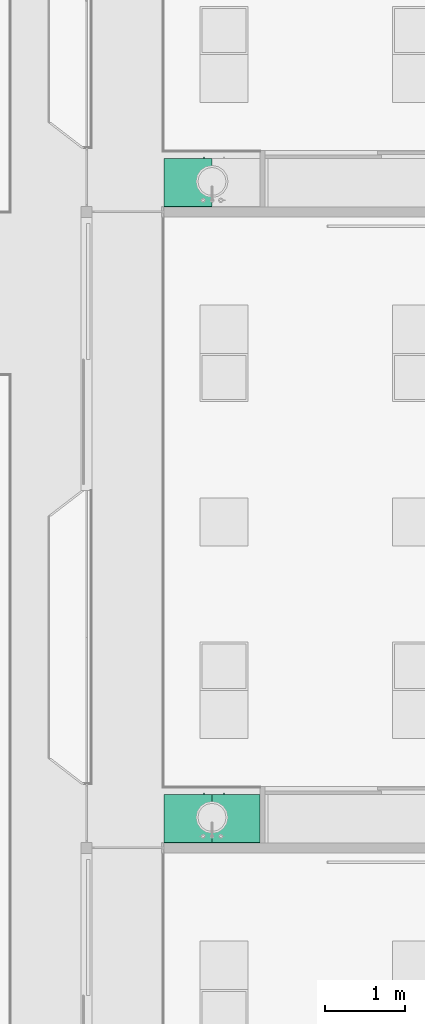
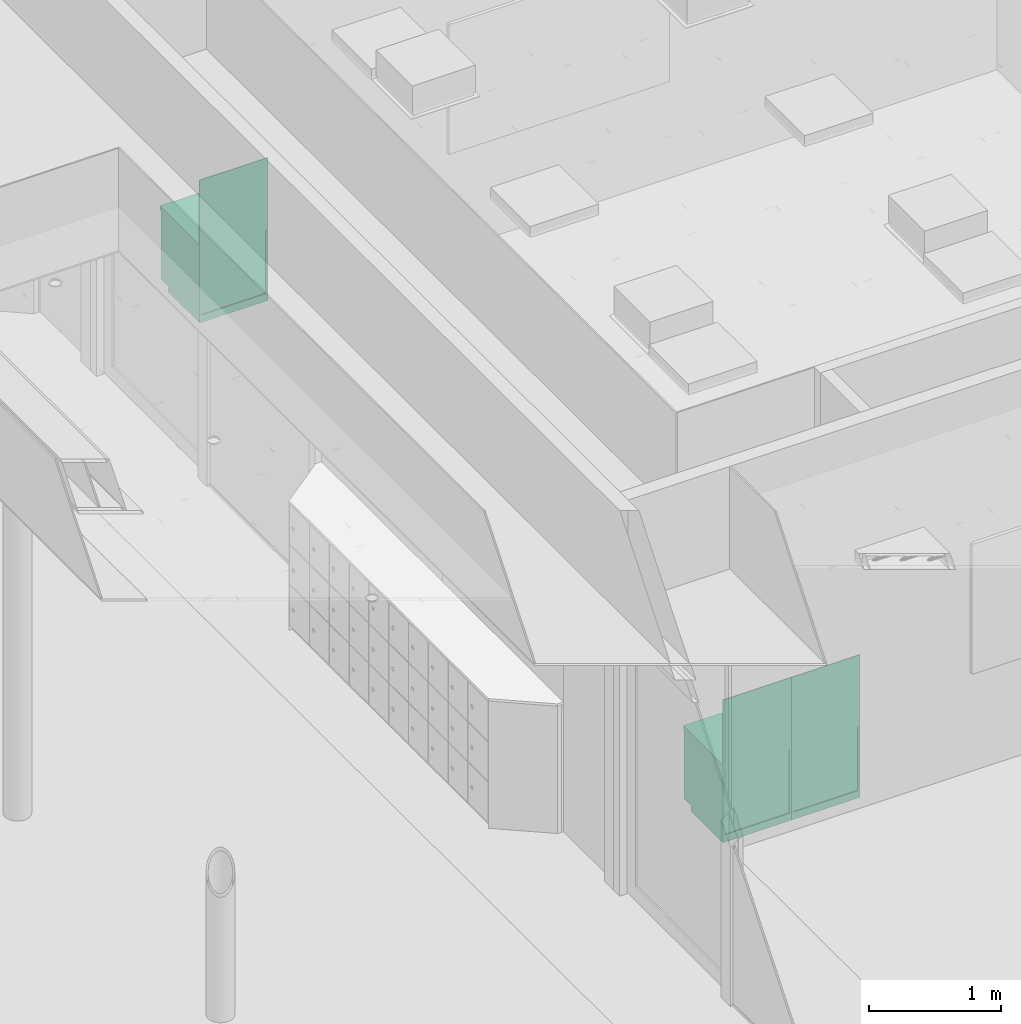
# One storey, part 306 of 347: 3 distribution elements.
"""IFC2X3 building model written with IfcOpenShell, lengths in millimetres."""

from ifc_helpers import new_model, entity, si_unit, converted_unit, derived_unit, money_unit, direction, frame, origin_with_axes, place, context, subcontext, project, spatial, faceted_brep, type_object, element, save


model = new_model("IFC2X3")

# Units and contexts
model_context = context("Model", 3, precision=0.01, world=origin_with_axes(), true_north=direction((0.0, 1.0)))
plan_context = context("Plan", 3, precision=0.01, world=origin_with_axes(), true_north=direction((0.0, 1.0)))
body_context = subcontext(model_context, "Body", "Model", "MODEL_VIEW")
ifc_project = project(units=[si_unit("LENGTHUNIT", "METRE", prefix="MILLI"), si_unit("AREAUNIT", "SQUARE_METRE"), si_unit("VOLUMEUNIT", "CUBIC_METRE"), converted_unit("PLANEANGLEUNIT", "DEGREE", entity("IfcPlaneAngleMeasure", 0.0174532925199), si_unit("PLANEANGLEUNIT", "RADIAN"), dimensions=[0, 0, 0, 0, 0, 0, 0]), money_unit("EUR"), converted_unit("TIMEUNIT", "Year", entity("IfcTimeMeasure", 31556926.0), si_unit("TIMEUNIT", "SECOND"), dimensions=[0, 0, 1, 0, 0, 0, 0]), si_unit("MASSUNIT", "GRAM", prefix="KILO"), si_unit("THERMODYNAMICTEMPERATUREUNIT", "DEGREE_CELSIUS"), si_unit("LUMINOUSINTENSITYUNIT", "LUMEN"), si_unit("ENERGYUNIT", "JOULE", prefix="MEGA"), derived_unit("THERMALCONDUCTANCEUNIT", [(si_unit("POWERUNIT", "WATT"), 1), (si_unit("LENGTHUNIT", "METRE"), -1), (si_unit("THERMODYNAMICTEMPERATUREUNIT", "KELVIN"), -1)]), derived_unit("SPECIFICHEATCAPACITYUNIT", [(si_unit("ENERGYUNIT", "JOULE"), 1), (si_unit("MASSUNIT", "GRAM", prefix="KILO"), -1), (si_unit("THERMODYNAMICTEMPERATUREUNIT", "KELVIN"), -1)]), derived_unit("MASSDENSITYUNIT", [(si_unit("MASSUNIT", "GRAM", prefix="KILO"), 1), (si_unit("VOLUMEUNIT", "CUBIC_METRE"), -1)])], contexts=[model_context, plan_context])

# Site, building, storey
site_placement = place(None, origin_with_axes())
site = spatial("IfcSite", under=ifc_project, at=site_placement, Name="Site", CompositionType="ELEMENT")
building_placement = place(site_placement, origin_with_axes())
building = spatial("IfcBuilding", under=site, at=building_placement, Name="Naam gebouw", CompositionType="ELEMENT")
storey_placement = place(building_placement, origin_with_axes())
storey = spatial("IfcBuildingStorey", under=building, at=storey_placement, Name="begane grond", CompositionType="ELEMENT", Elevation=0.0)

# Distribution elements
distribution_element_type = type_object("IfcDistributionElementType", Name="Onderkast recht 25")
distribution_element_1_placement = place(storey_placement, frame((48975.0, 20112.5, 0.0), z_axis=(0.0, 0.0, 1.0), x_axis=(-1.0, 0.0, 0.0)))
element("IfcDistributionElement", 1, at=distribution_element_1_placement, inside=storey, type_object=distribution_element_type, Name="65 Beveiliging_82 pantryblok", context=body_context, shape_type="Brep", body=[
    faceted_brep([(-472.720779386, -444.012913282, 720.0), (-531.116982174, -483.03200852, 720.0), (-600.0, -496.733692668, 720.0), (-600.0, -600.0, 720.0), (0.0, -600.0, 720.0), (0.0, 0.0, 720.0), (-600.0, 0.0, 720.0), (-600.0, -136.733692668, 720.0), (-531.116982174, -150.435376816, 720.0), (-472.720779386, -189.454472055, 720.0), (-433.701684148, -247.850674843, 720.0), (-420.0, -316.733692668, 720.0), (-433.701684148, -385.616710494, 720.0), (-472.720779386, -444.012913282, 680.0), (-531.116982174, -483.03200852, 680.0), (-600.0, -496.733692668, 680.0), (-600.0, -600.0, 680.0), (0.0, -600.0, 680.0), (0.0, 0.0, 680.0), (-600.0, 0.0, 680.0), (-600.0, -136.733692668, 680.0), (-531.116982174, -150.435376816, 680.0), (-472.720779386, -189.454472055, 680.0), (-433.701684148, -247.850674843, 680.0), (-420.0, -316.733692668, 680.0), (-433.701684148, -385.616710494, 680.0)], [[[0, 1, 2, 3, 4, 5, 6, 7, 8, 9, 10, 11, 12]], [[1, 0, 13, 14]], [[2, 1, 14, 15]], [[2, 15, 16, 3]], [[16, 17, 4, 3]], [[17, 18, 5, 4]], [[18, 19, 6, 5]], [[20, 7, 6, 19]], [[8, 7, 20, 21]], [[9, 8, 21, 22]], [[10, 9, 22, 23]], [[11, 10, 23, 24]], [[12, 11, 24, 25]], [[0, 12, 25, 13]], [[21, 20, 19, 18, 17, 16, 15, 14, 13, 25, 24, 23, 22]]]),
    faceted_brep([(-18.0, -512.0, 662.0), (-18.0, -572.0, 662.0), (-582.0, -572.0, 662.0), (-582.0, -512.0, 662.0), (-18.0, -572.0, 680.0), (-18.0, -512.0, 680.0), (-582.0, -572.0, 680.0), (-582.0, -512.0, 680.0)], [[[0, 1, 2, 3]], [[4, 1, 0, 5]], [[1, 4, 6, 2]], [[3, 2, 6, 7]], [[5, 0, 3, 7]], [[4, 5, 7, 6]]]),
    faceted_brep([(-18.0, -9.0, 68.0), (-582.0, -9.0, 68.0), (-582.0, -9.0, 662.0), (-18.0, -9.0, 662.0), (-582.0, -18.0, 68.0), (-18.0, -18.0, 68.0), (-582.0, -18.0, 662.0), (-18.0, -18.0, 662.0)], [[[0, 1, 2, 3]], [[4, 1, 0, 5]], [[1, 4, 6, 2]], [[3, 2, 6, 7]], [[5, 0, 3, 7]], [[4, 5, 7, 6]]]),
    faceted_brep([(-582.0, -60.0, 662.0), (-582.0, 0.0, 662.0), (-18.0, 0.0, 662.0), (-18.0, -60.0, 662.0), (-582.0, 0.0, 680.0), (-582.0, -60.0, 680.0), (-18.0, 0.0, 680.0), (-18.0, -60.0, 680.0)], [[[0, 1, 2, 3]], [[4, 1, 0, 5]], [[1, 4, 6, 2]], [[3, 2, 6, 7]], [[5, 0, 3, 7]], [[4, 5, 7, 6]]]),
    faceted_brep([(0.0, -572.0, 50.0), (0.0, 0.0, 50.0), (0.0, 0.0, 680.0), (0.0, -572.0, 680.0), (-18.0, 0.0, 50.0), (-18.0, -572.0, 50.0), (-18.0, 0.0, 680.0), (-18.0, -572.0, 680.0)], [[[0, 1, 2, 3]], [[4, 1, 0, 5]], [[1, 4, 6, 2]], [[3, 2, 6, 7]], [[5, 0, 3, 7]], [[4, 5, 7, 6]]]),
    faceted_brep([(-594.564800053, -196.449250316, 520.0), (-600.0, -195.733692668, 520.0), (-600.0, -195.733692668, 500.0), (-594.564800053, -196.449250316, 500.0), (-600.0, -136.733692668, 520.0), (-589.5, -198.547159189, 520.0), (-585.150757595, -201.884450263, 520.0), (-582.0, -205.990597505, 520.0), (-582.0, -140.314115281, 520.0), (-600.0, -496.733692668, 520.0), (-600.0, -237.733692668, 520.0), (-600.0, -237.733692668, 500.0), (-600.0, -136.733692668, 680.0), (-600.0, 0.0, 680.0), (-600.0, 0.0, 50.0), (-600.0, -572.0, 50.0), (-600.0, -572.0, 680.0), (-600.0, -496.733692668, 680.0), (-594.564800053, -237.01813502, 500.0), (-589.5, -234.920226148, 500.0), (-585.150757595, -231.582935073, 500.0), (-582.0, -227.476787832, 500.0), (-582.0, -205.990597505, 500.0), (-585.150757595, -201.884450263, 500.0), (-589.5, -198.547159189, 500.0), (-582.0, -493.153270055, 520.0), (-582.0, -493.153270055, 680.0), (-582.0, -572.0, 680.0), (-582.0, -572.0, 50.0), (-582.0, 0.0, 50.0), (-582.0, 0.0, 680.0), (-582.0, -140.314115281, 680.0), (-582.0, -227.476787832, 520.0), (-585.150757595, -231.582935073, 520.0), (-589.5, -234.920226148, 520.0), (-594.564800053, -237.01813502, 520.0)], [[[0, 1, 2, 3]], [[4, 1, 0, 5, 6, 7, 8]], [[9, 10, 11, 2, 1, 4, 12, 13, 14, 15, 16, 17]], [[2, 11, 18, 19, 20, 21, 22, 23, 24, 3]], [[5, 0, 3, 24]], [[6, 5, 24, 23]], [[7, 6, 23, 22]], [[25, 26, 27, 28, 29, 30, 31, 8, 7, 22, 21, 32]], [[31, 12, 4, 8]], [[10, 9, 25, 32, 33, 34, 35]], [[10, 35, 18, 11]], [[12, 31, 30, 13]], [[29, 14, 13, 30]], [[28, 15, 14, 29]], [[15, 28, 27, 16]], [[26, 17, 16, 27]], [[17, 26, 25, 9]], [[35, 34, 19, 18]], [[34, 33, 20, 19]], [[33, 32, 21, 20]]]),
    faceted_brep([(-600.0, 0.0, 720.0), (0.0, 0.0, 720.0), (0.0, -6.0, 720.0), (-600.0, -6.0, 720.0), (-600.0, 0.0, 1320.0), (0.0, 0.0, 1320.0), (0.0, -6.0, 1320.0), (-600.0, -6.0, 1320.0)], [[[0, 1, 2, 3]], [[4, 5, 1, 0]], [[1, 5, 6, 2]], [[3, 2, 6, 7]], [[0, 3, 7, 4]], [[7, 6, 5, 4]]]),
    faceted_brep([(-496.0, -590.0, 291.0), (-506.0, -590.0, 291.0), (-506.0, -590.0, 301.0), (-496.0, -590.0, 301.0), (-496.0, -600.0, 291.0), (-506.0, -600.0, 291.0), (-506.0, -603.472963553, 291.30384494), (-506.0, -606.840402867, 292.206147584), (-506.0, -610.0, 293.679491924), (-506.0, -612.855752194, 295.679111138), (-506.0, -615.320888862, 298.144247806), (-506.0, -617.320508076, 301.0), (-506.0, -618.793852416, 304.159597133), (-506.0, -619.69615506, 307.527036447), (-506.0, -620.0, 311.0), (-506.0, -620.0, 421.0), (-506.0, -619.69615506, 424.472963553), (-506.0, -618.793852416, 427.840402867), (-506.0, -617.320508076, 431.0), (-506.0, -615.320888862, 433.855752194), (-506.0, -612.855752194, 436.320888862), (-506.0, -610.0, 438.320508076), (-506.0, -606.840402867, 439.793852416), (-506.0, -603.472963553, 440.69615506), (-506.0, -600.0, 441.0), (-506.0, -590.0, 441.0), (-506.0, -590.0, 431.0), (-506.0, -600.0, 431.0), (-506.0, -601.736481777, 430.84807753), (-506.0, -603.420201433, 430.396926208), (-506.0, -605.0, 429.660254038), (-506.0, -606.427876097, 428.660444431), (-506.0, -607.660444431, 427.427876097), (-506.0, -608.660254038, 426.0), (-506.0, -609.396926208, 424.420201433), (-506.0, -609.84807753, 422.736481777), (-506.0, -610.0, 421.0), (-506.0, -610.0, 311.0), (-506.0, -609.84807753, 309.263518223), (-506.0, -609.396926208, 307.579798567), (-506.0, -608.660254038, 306.0), (-506.0, -607.660444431, 304.572123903), (-506.0, -606.427876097, 303.339555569), (-506.0, -605.0, 302.339745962), (-506.0, -603.420201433, 301.603073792), (-506.0, -601.736481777, 301.15192247), (-506.0, -600.0, 301.0), (-496.0, -600.0, 301.0), (-496.0, -601.736481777, 301.15192247), (-496.0, -603.420201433, 301.603073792), (-496.0, -605.0, 302.339745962), (-496.0, -606.427876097, 303.339555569), (-496.0, -607.660444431, 304.572123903), (-496.0, -608.660254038, 306.0), (-496.0, -609.396926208, 307.579798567), (-496.0, -609.84807753, 309.263518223), (-496.0, -610.0, 311.0), (-496.0, -610.0, 421.0), (-496.0, -609.84807753, 422.736481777), (-496.0, -609.396926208, 424.420201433), (-496.0, -608.660254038, 426.0), (-496.0, -607.660444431, 427.427876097), (-496.0, -606.427876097, 428.660444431), (-496.0, -605.0, 429.660254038), (-496.0, -603.420201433, 430.396926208), (-496.0, -601.736481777, 430.84807753), (-496.0, -600.0, 431.0), (-496.0, -590.0, 431.0), (-496.0, -590.0, 441.0), (-496.0, -600.0, 441.0), (-496.0, -603.472963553, 440.69615506), (-496.0, -606.840402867, 439.793852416), (-496.0, -610.0, 438.320508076), (-496.0, -612.855752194, 436.320888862), (-496.0, -615.320888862, 433.855752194), (-496.0, -617.320508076, 431.0), (-496.0, -618.793852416, 427.840402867), (-496.0, -619.69615506, 424.472963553), (-496.0, -620.0, 421.0), (-496.0, -620.0, 311.0), (-496.0, -619.69615506, 307.527036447), (-496.0, -618.793852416, 304.159597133), (-496.0, -617.320508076, 301.0), (-496.0, -615.320888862, 298.144247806), (-496.0, -612.855752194, 295.679111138), (-496.0, -610.0, 293.679491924), (-496.0, -606.840402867, 292.206147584), (-496.0, -603.472963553, 291.30384494)], [[[0, 1, 2, 3]], [[4, 5, 1, 0]], [[1, 5, 6, 7, 8, 9, 10, 11, 12, 13, 14, 15, 16, 17, 18, 19, 20, 21, 22, 23, 24, 25, 26, 27, 28, 29, 30, 31, 32, 33, 34, 35, 36, 37, 38, 39, 40, 41, 42, 43, 44, 45, 46, 2]], [[3, 2, 46, 47]], [[0, 3, 47, 48, 49, 50, 51, 52, 53, 54, 55, 56, 57, 58, 59, 60, 61, 62, 63, 64, 65, 66, 67, 68, 69, 70, 71, 72, 73, 74, 75, 76, 77, 78, 79, 80, 81, 82, 83, 84, 85, 86, 87, 4]], [[87, 6, 5, 4]], [[86, 7, 6, 87]], [[85, 8, 7, 86]], [[84, 9, 8, 85]], [[83, 10, 9, 84]], [[82, 11, 10, 83]], [[81, 12, 11, 82]], [[80, 13, 12, 81]], [[79, 14, 13, 80]], [[78, 15, 14, 79]], [[77, 16, 15, 78]], [[76, 17, 16, 77]], [[75, 18, 17, 76]], [[74, 19, 18, 75]], [[73, 20, 19, 74]], [[72, 21, 20, 73]], [[71, 22, 21, 72]], [[70, 23, 22, 71]], [[69, 24, 23, 70]], [[68, 25, 24, 69]], [[67, 26, 25, 68]], [[66, 27, 26, 67]], [[65, 28, 27, 66]], [[64, 29, 28, 65]], [[63, 30, 29, 64]], [[62, 31, 30, 63]], [[61, 32, 31, 62]], [[60, 33, 32, 61]], [[59, 34, 33, 60]], [[58, 35, 34, 59]], [[57, 36, 35, 58]], [[56, 37, 36, 57]], [[55, 38, 37, 56]], [[54, 39, 38, 55]], [[53, 40, 39, 54]], [[52, 41, 40, 53]], [[51, 42, 41, 52]], [[50, 43, 42, 51]], [[49, 44, 43, 50]], [[48, 45, 44, 49]], [[47, 46, 45, 48]]]),
    faceted_brep([(-0.999999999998, -572.0, 51.0), (-0.999999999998, -590.0, 51.0), (-599.0, -590.0, 51.0), (-599.0, -572.0, 51.0), (-0.999999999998, -572.0, 679.0), (-0.999999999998, -590.0, 679.0), (-599.0, -590.0, 679.0), (-599.0, -572.0, 679.0)], [[[0, 1, 2, 3]], [[4, 5, 1, 0]], [[1, 5, 6, 2]], [[3, 2, 6, 7]], [[0, 3, 7, 4]], [[7, 6, 5, 4]]]),
    faceted_brep([(-18.0, -572.0, 50.0), (-18.0, -572.0, 68.0), (-582.0, -572.0, 68.0), (-582.0, -572.0, 50.0), (-18.0, 0.0, 50.0), (-18.0, 0.0, 68.0), (-582.0, 0.0, 68.0), (-582.0, 0.0, 50.0)], [[[0, 1, 2, 3]], [[4, 5, 1, 0]], [[1, 5, 6, 2]], [[3, 2, 6, 7]], [[0, 3, 7, 4]], [[7, 6, 5, 4]]]),
    faceted_brep([(0.0, -482.0, 0.0), (0.0, -482.0, 50.0), (-600.0, -482.0, 50.0), (-600.0, -482.0, 0.0), (0.0, 0.0, 0.0), (0.0, 0.0, 50.0), (-600.0, 0.0, 50.0), (-600.0, 0.0, 0.0)], [[[0, 1, 2, 3]], [[4, 5, 1, 0]], [[1, 5, 6, 2]], [[3, 2, 6, 7]], [[0, 3, 7, 4]], [[7, 6, 5, 4]]]),
])
distribution_element_2_placement = place(storey_placement, frame((49575.0, 20112.5, 0.0), z_axis=(0.0, 0.0, 1.0), x_axis=(-1.0, 0.0, 0.0)))
element("IfcDistributionElement", 2, at=distribution_element_2_placement, inside=storey, type_object=distribution_element_type, Name="65 Beveiliging_82 pantryblok", context=body_context, shape_type="Brep", body=[
    faceted_brep([(-127.279220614, -444.012913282, 720.0), (-166.298315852, -385.616710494, 720.0), (-180.0, -316.733692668, 720.0), (-166.298315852, -247.850674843, 720.0), (-127.279220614, -189.454472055, 720.0), (-68.8830178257, -150.435376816, 720.0), (0.0, -136.733692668, 720.0), (0.0, 0.0, 720.0), (-600.0, 0.0, 720.0), (-600.0, -600.0, 720.0), (0.0, -600.0, 720.0), (0.0, -496.733692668, 720.0), (-68.8830178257, -483.03200852, 720.0), (-127.279220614, -444.012913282, 680.0), (-166.298315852, -385.616710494, 680.0), (-180.0, -316.733692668, 680.0), (-166.298315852, -247.850674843, 680.0), (-127.279220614, -189.454472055, 680.0), (-68.8830178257, -150.435376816, 680.0), (0.0, -136.733692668, 680.0), (0.0, 0.0, 680.0), (-600.0, 0.0, 680.0), (-600.0, -600.0, 680.0), (0.0, -600.0, 680.0), (0.0, -496.733692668, 680.0), (-68.8830178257, -483.03200852, 680.0)], [[[0, 1, 2, 3, 4, 5, 6, 7, 8, 9, 10, 11, 12]], [[1, 0, 13, 14]], [[2, 1, 14, 15]], [[3, 2, 15, 16]], [[4, 3, 16, 17]], [[5, 4, 17, 18]], [[6, 5, 18, 19]], [[6, 19, 20, 7]], [[20, 21, 8, 7]], [[21, 22, 9, 8]], [[22, 23, 10, 9]], [[24, 11, 10, 23]], [[12, 11, 24, 25]], [[0, 12, 25, 13]], [[25, 24, 23, 22, 21, 20, 19, 18, 17, 16, 15, 14, 13]]]),
    faceted_brep([(-18.0, -512.0, 662.0), (-18.0, -572.0, 662.0), (-582.0, -572.0, 662.0), (-582.0, -512.0, 662.0), (-18.0, -572.0, 680.0), (-18.0, -512.0, 680.0), (-582.0, -572.0, 680.0), (-582.0, -512.0, 680.0)], [[[0, 1, 2, 3]], [[4, 1, 0, 5]], [[1, 4, 6, 2]], [[3, 2, 6, 7]], [[5, 0, 3, 7]], [[4, 5, 7, 6]]]),
    faceted_brep([(-18.0, -9.0, 68.0), (-582.0, -9.0, 68.0), (-582.0, -9.0, 662.0), (-18.0, -9.0, 662.0), (-582.0, -18.0, 68.0), (-18.0, -18.0, 68.0), (-582.0, -18.0, 662.0), (-18.0, -18.0, 662.0)], [[[0, 1, 2, 3]], [[4, 1, 0, 5]], [[1, 4, 6, 2]], [[3, 2, 6, 7]], [[5, 0, 3, 7]], [[4, 5, 7, 6]]]),
    faceted_brep([(-582.0, -60.0, 662.0), (-582.0, 0.0, 662.0), (-18.0, 0.0, 662.0), (-18.0, -60.0, 662.0), (-582.0, 0.0, 680.0), (-582.0, -60.0, 680.0), (-18.0, 0.0, 680.0), (-18.0, -60.0, 680.0)], [[[0, 1, 2, 3]], [[4, 1, 0, 5]], [[1, 4, 6, 2]], [[3, 2, 6, 7]], [[5, 0, 3, 7]], [[4, 5, 7, 6]]]),
    faceted_brep([(-14.8492424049, -201.884450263, 520.0), (-18.0, -205.990597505, 520.0), (-18.0, -205.990597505, 500.0), (-14.8492424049, -201.884450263, 500.0), (-18.0, -140.314115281, 520.0), (-10.5, -198.547159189, 520.0), (-5.43519994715, -196.449250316, 520.0), (0.0, -195.733692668, 520.0), (0.0, -136.733692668, 520.0), (-18.0, -493.153270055, 520.0), (-18.0, -227.476787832, 520.0), (-18.0, -227.476787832, 500.0), (-18.0, -140.314115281, 680.0), (-18.0, 0.0, 680.0), (-18.0, 0.0, 50.0), (-18.0, -572.0, 50.0), (-18.0, -572.0, 680.0), (-18.0, -493.153270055, 680.0), (-14.8492424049, -231.582935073, 500.0), (-10.5, -234.920226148, 500.0), (-5.43519994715, -237.01813502, 500.0), (0.0, -237.733692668, 500.0), (0.0, -195.733692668, 500.0), (-5.43519994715, -196.449250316, 500.0), (-10.5, -198.547159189, 500.0), (0.0, -496.733692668, 520.0), (0.0, -496.733692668, 680.0), (0.0, -572.0, 680.0), (0.0, -572.0, 50.0), (0.0, 0.0, 50.0), (0.0, 0.0, 680.0), (0.0, -136.733692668, 680.0), (0.0, -237.733692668, 520.0), (-5.43519994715, -237.01813502, 520.0), (-10.5, -234.920226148, 520.0), (-14.8492424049, -231.582935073, 520.0)], [[[0, 1, 2, 3]], [[4, 1, 0, 5, 6, 7, 8]], [[9, 10, 11, 2, 1, 4, 12, 13, 14, 15, 16, 17]], [[2, 11, 18, 19, 20, 21, 22, 23, 24, 3]], [[5, 0, 3, 24]], [[6, 5, 24, 23]], [[7, 6, 23, 22]], [[25, 26, 27, 28, 29, 30, 31, 8, 7, 22, 21, 32]], [[31, 12, 4, 8]], [[10, 9, 25, 32, 33, 34, 35]], [[10, 35, 18, 11]], [[12, 31, 30, 13]], [[29, 14, 13, 30]], [[14, 29, 28, 15]], [[15, 28, 27, 16]], [[26, 17, 16, 27]], [[9, 17, 26, 25]], [[35, 34, 19, 18]], [[34, 33, 20, 19]], [[33, 32, 21, 20]]]),
    faceted_brep([(-600.0, 0.0, 50.0), (-600.0, -572.0, 50.0), (-600.0, -572.0, 680.0), (-600.0, 0.0, 680.0), (-582.0, -572.0, 50.0), (-582.0, 0.0, 50.0), (-582.0, -572.0, 680.0), (-582.0, 0.0, 680.0)], [[[0, 1, 2, 3]], [[4, 1, 0, 5]], [[1, 4, 6, 2]], [[3, 2, 6, 7]], [[5, 0, 3, 7]], [[4, 5, 7, 6]]]),
    faceted_brep([(-600.0, 0.0, 720.0), (0.0, 0.0, 720.0), (0.0, -6.0, 720.0), (-600.0, -6.0, 720.0), (-600.0, 0.0, 1320.0), (0.0, 0.0, 1320.0), (0.0, -6.0, 1320.0), (-600.0, -6.0, 1320.0)], [[[0, 1, 2, 3]], [[4, 5, 1, 0]], [[1, 5, 6, 2]], [[3, 2, 6, 7]], [[0, 3, 7, 4]], [[7, 6, 5, 4]]]),
    faceted_brep([(-146.0, -590.0, 291.0), (-156.0, -590.0, 291.0), (-156.0, -590.0, 301.0), (-146.0, -590.0, 301.0), (-146.0, -600.0, 291.0), (-156.0, -600.0, 291.0), (-156.0, -603.472963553, 291.30384494), (-156.0, -606.840402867, 292.206147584), (-156.0, -610.0, 293.679491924), (-156.0, -612.855752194, 295.679111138), (-156.0, -615.320888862, 298.144247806), (-156.0, -617.320508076, 301.0), (-156.0, -618.793852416, 304.159597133), (-156.0, -619.69615506, 307.527036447), (-156.0, -620.0, 311.0), (-156.0, -620.0, 421.0), (-156.0, -619.69615506, 424.472963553), (-156.0, -618.793852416, 427.840402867), (-156.0, -617.320508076, 431.0), (-156.0, -615.320888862, 433.855752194), (-156.0, -612.855752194, 436.320888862), (-156.0, -610.0, 438.320508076), (-156.0, -606.840402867, 439.793852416), (-156.0, -603.472963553, 440.69615506), (-156.0, -600.0, 441.0), (-156.0, -590.0, 441.0), (-156.0, -590.0, 431.0), (-156.0, -600.0, 431.0), (-156.0, -601.736481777, 430.84807753), (-156.0, -603.420201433, 430.396926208), (-156.0, -605.0, 429.660254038), (-156.0, -606.427876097, 428.660444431), (-156.0, -607.660444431, 427.427876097), (-156.0, -608.660254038, 426.0), (-156.0, -609.396926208, 424.420201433), (-156.0, -609.84807753, 422.736481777), (-156.0, -610.0, 421.0), (-156.0, -610.0, 311.0), (-156.0, -609.84807753, 309.263518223), (-156.0, -609.396926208, 307.579798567), (-156.0, -608.660254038, 306.0), (-156.0, -607.660444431, 304.572123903), (-156.0, -606.427876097, 303.339555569), (-156.0, -605.0, 302.339745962), (-156.0, -603.420201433, 301.603073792), (-156.0, -601.736481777, 301.15192247), (-156.0, -600.0, 301.0), (-146.0, -600.0, 301.0), (-146.0, -601.736481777, 301.15192247), (-146.0, -603.420201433, 301.603073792), (-146.0, -605.0, 302.339745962), (-146.0, -606.427876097, 303.339555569), (-146.0, -607.660444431, 304.572123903), (-146.0, -608.660254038, 306.0), (-146.0, -609.396926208, 307.579798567), (-146.0, -609.84807753, 309.263518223), (-146.0, -610.0, 311.0), (-146.0, -610.0, 421.0), (-146.0, -609.84807753, 422.736481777), (-146.0, -609.396926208, 424.420201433), (-146.0, -608.660254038, 426.0), (-146.0, -607.660444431, 427.427876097), (-146.0, -606.427876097, 428.660444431), (-146.0, -605.0, 429.660254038), (-146.0, -603.420201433, 430.396926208), (-146.0, -601.736481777, 430.84807753), (-146.0, -600.0, 431.0), (-146.0, -590.0, 431.0), (-146.0, -590.0, 441.0), (-146.0, -600.0, 441.0), (-146.0, -603.472963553, 440.69615506), (-146.0, -606.840402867, 439.793852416), (-146.0, -610.0, 438.320508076), (-146.0, -612.855752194, 436.320888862), (-146.0, -615.320888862, 433.855752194), (-146.0, -617.320508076, 431.0), (-146.0, -618.793852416, 427.840402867), (-146.0, -619.69615506, 424.472963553), (-146.0, -620.0, 421.0), (-146.0, -620.0, 311.0), (-146.0, -619.69615506, 307.527036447), (-146.0, -618.793852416, 304.159597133), (-146.0, -617.320508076, 301.0), (-146.0, -615.320888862, 298.144247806), (-146.0, -612.855752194, 295.679111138), (-146.0, -610.0, 293.679491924), (-146.0, -606.840402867, 292.206147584), (-146.0, -603.472963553, 291.30384494)], [[[0, 1, 2, 3]], [[4, 5, 1, 0]], [[1, 5, 6, 7, 8, 9, 10, 11, 12, 13, 14, 15, 16, 17, 18, 19, 20, 21, 22, 23, 24, 25, 26, 27, 28, 29, 30, 31, 32, 33, 34, 35, 36, 37, 38, 39, 40, 41, 42, 43, 44, 45, 46, 2]], [[3, 2, 46, 47]], [[0, 3, 47, 48, 49, 50, 51, 52, 53, 54, 55, 56, 57, 58, 59, 60, 61, 62, 63, 64, 65, 66, 67, 68, 69, 70, 71, 72, 73, 74, 75, 76, 77, 78, 79, 80, 81, 82, 83, 84, 85, 86, 87, 4]], [[87, 6, 5, 4]], [[86, 7, 6, 87]], [[85, 8, 7, 86]], [[84, 9, 8, 85]], [[83, 10, 9, 84]], [[82, 11, 10, 83]], [[81, 12, 11, 82]], [[80, 13, 12, 81]], [[79, 14, 13, 80]], [[78, 15, 14, 79]], [[77, 16, 15, 78]], [[76, 17, 16, 77]], [[75, 18, 17, 76]], [[74, 19, 18, 75]], [[73, 20, 19, 74]], [[72, 21, 20, 73]], [[71, 22, 21, 72]], [[70, 23, 22, 71]], [[69, 24, 23, 70]], [[68, 25, 24, 69]], [[67, 26, 25, 68]], [[66, 27, 26, 67]], [[65, 28, 27, 66]], [[64, 29, 28, 65]], [[63, 30, 29, 64]], [[62, 31, 30, 63]], [[61, 32, 31, 62]], [[60, 33, 32, 61]], [[59, 34, 33, 60]], [[58, 35, 34, 59]], [[57, 36, 35, 58]], [[56, 37, 36, 57]], [[55, 38, 37, 56]], [[54, 39, 38, 55]], [[53, 40, 39, 54]], [[52, 41, 40, 53]], [[51, 42, 41, 52]], [[50, 43, 42, 51]], [[49, 44, 43, 50]], [[48, 45, 44, 49]], [[47, 46, 45, 48]]]),
    faceted_brep([(-0.999999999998, -572.0, 51.0), (-0.999999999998, -590.0, 51.0), (-599.0, -590.0, 51.0), (-599.0, -572.0, 51.0), (-0.999999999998, -572.0, 679.0), (-0.999999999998, -590.0, 679.0), (-599.0, -590.0, 679.0), (-599.0, -572.0, 679.0)], [[[0, 1, 2, 3]], [[4, 5, 1, 0]], [[1, 5, 6, 2]], [[3, 2, 6, 7]], [[0, 3, 7, 4]], [[7, 6, 5, 4]]]),
    faceted_brep([(-18.0, -572.0, 50.0), (-18.0, -572.0, 68.0), (-582.0, -572.0, 68.0), (-582.0, -572.0, 50.0), (-18.0, 0.0, 50.0), (-18.0, 0.0, 68.0), (-582.0, 0.0, 68.0), (-582.0, 0.0, 50.0)], [[[0, 1, 2, 3]], [[4, 5, 1, 0]], [[1, 5, 6, 2]], [[3, 2, 6, 7]], [[0, 3, 7, 4]], [[7, 6, 5, 4]]]),
    faceted_brep([(0.0, -482.0, 0.0), (0.0, -482.0, 50.0), (-600.0, -482.0, 50.0), (-600.0, -482.0, 0.0), (0.0, 0.0, 0.0), (0.0, 0.0, 50.0), (-600.0, 0.0, 50.0), (-600.0, 0.0, 0.0)], [[[0, 1, 2, 3]], [[4, 5, 1, 0]], [[1, 5, 6, 2]], [[3, 2, 6, 7]], [[0, 3, 7, 4]], [[7, 6, 5, 4]]]),
])
distribution_element_3_placement = place(storey_placement, frame((48975.0, 28037.5, 0.0), z_axis=(0.0, 0.0, 1.0), x_axis=(-1.0, 0.0, 0.0)))
element("IfcDistributionElement", 3, at=distribution_element_3_placement, inside=storey, type_object=distribution_element_type, Name="65 Beveiliging_82 pantryblok", context=body_context, shape_type="Brep", body=[
    faceted_brep([(-472.720779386, -444.012913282, 720.0), (-531.116982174, -483.03200852, 720.0), (-600.0, -496.733692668, 720.0), (-600.0, -600.0, 720.0), (0.0, -600.0, 720.0), (0.0, 0.0, 720.0), (-600.0, 0.0, 720.0), (-600.0, -136.733692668, 720.0), (-531.116982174, -150.435376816, 720.0), (-472.720779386, -189.454472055, 720.0), (-433.701684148, -247.850674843, 720.0), (-420.0, -316.733692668, 720.0), (-433.701684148, -385.616710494, 720.0), (-472.720779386, -444.012913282, 680.0), (-531.116982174, -483.03200852, 680.0), (-600.0, -496.733692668, 680.0), (-600.0, -600.0, 680.0), (0.0, -600.0, 680.0), (0.0, 0.0, 680.0), (-600.0, 0.0, 680.0), (-600.0, -136.733692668, 680.0), (-531.116982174, -150.435376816, 680.0), (-472.720779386, -189.454472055, 680.0), (-433.701684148, -247.850674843, 680.0), (-420.0, -316.733692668, 680.0), (-433.701684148, -385.616710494, 680.0)], [[[0, 1, 2, 3, 4, 5, 6, 7, 8, 9, 10, 11, 12]], [[1, 0, 13, 14]], [[2, 1, 14, 15]], [[2, 15, 16, 3]], [[16, 17, 4, 3]], [[17, 18, 5, 4]], [[18, 19, 6, 5]], [[20, 7, 6, 19]], [[8, 7, 20, 21]], [[9, 8, 21, 22]], [[10, 9, 22, 23]], [[11, 10, 23, 24]], [[12, 11, 24, 25]], [[0, 12, 25, 13]], [[21, 20, 19, 18, 17, 16, 15, 14, 13, 25, 24, 23, 22]]]),
    faceted_brep([(-18.0, -512.0, 662.0), (-18.0, -572.0, 662.0), (-582.0, -572.0, 662.0), (-582.0, -512.0, 662.0), (-18.0, -572.0, 680.0), (-18.0, -512.0, 680.0), (-582.0, -572.0, 680.0), (-582.0, -512.0, 680.0)], [[[0, 1, 2, 3]], [[4, 1, 0, 5]], [[1, 4, 6, 2]], [[3, 2, 6, 7]], [[5, 0, 3, 7]], [[4, 5, 7, 6]]]),
    faceted_brep([(-18.0, -9.0, 68.0), (-582.0, -9.0, 68.0), (-582.0, -9.0, 662.0), (-18.0, -9.0, 662.0), (-582.0, -18.0, 68.0), (-18.0, -18.0, 68.0), (-582.0, -18.0, 662.0), (-18.0, -18.0, 662.0)], [[[0, 1, 2, 3]], [[4, 1, 0, 5]], [[1, 4, 6, 2]], [[3, 2, 6, 7]], [[5, 0, 3, 7]], [[4, 5, 7, 6]]]),
    faceted_brep([(-582.0, -60.0, 662.0), (-582.0, 0.0, 662.0), (-18.0, 0.0, 662.0), (-18.0, -60.0, 662.0), (-582.0, 0.0, 680.0), (-582.0, -60.0, 680.0), (-18.0, 0.0, 680.0), (-18.0, -60.0, 680.0)], [[[0, 1, 2, 3]], [[4, 1, 0, 5]], [[1, 4, 6, 2]], [[3, 2, 6, 7]], [[5, 0, 3, 7]], [[4, 5, 7, 6]]]),
    faceted_brep([(0.0, -572.0, 50.0), (0.0, 0.0, 50.0), (0.0, 0.0, 680.0), (0.0, -572.0, 680.0), (-18.0, 0.0, 50.0), (-18.0, -572.0, 50.0), (-18.0, 0.0, 680.0), (-18.0, -572.0, 680.0)], [[[0, 1, 2, 3]], [[4, 1, 0, 5]], [[1, 4, 6, 2]], [[3, 2, 6, 7]], [[5, 0, 3, 7]], [[4, 5, 7, 6]]]),
    faceted_brep([(-594.564800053, -196.449250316, 520.0), (-600.0, -195.733692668, 520.0), (-600.0, -195.733692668, 500.0), (-594.564800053, -196.449250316, 500.0), (-600.0, -136.733692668, 520.0), (-589.5, -198.547159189, 520.0), (-585.150757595, -201.884450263, 520.0), (-582.0, -205.990597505, 520.0), (-582.0, -140.314115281, 520.0), (-600.0, -496.733692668, 520.0), (-600.0, -237.733692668, 520.0), (-600.0, -237.733692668, 500.0), (-600.0, -136.733692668, 680.0), (-600.0, 0.0, 680.0), (-600.0, 0.0, 50.0), (-600.0, -572.0, 50.0), (-600.0, -572.0, 680.0), (-600.0, -496.733692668, 680.0), (-594.564800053, -237.01813502, 500.0), (-589.5, -234.920226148, 500.0), (-585.150757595, -231.582935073, 500.0), (-582.0, -227.476787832, 500.0), (-582.0, -205.990597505, 500.0), (-585.150757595, -201.884450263, 500.0), (-589.5, -198.547159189, 500.0), (-582.0, -493.153270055, 520.0), (-582.0, -493.153270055, 680.0), (-582.0, -572.0, 680.0), (-582.0, -572.0, 50.0), (-582.0, 0.0, 50.0), (-582.0, 0.0, 680.0), (-582.0, -140.314115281, 680.0), (-582.0, -227.476787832, 520.0), (-585.150757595, -231.582935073, 520.0), (-589.5, -234.920226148, 520.0), (-594.564800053, -237.01813502, 520.0)], [[[0, 1, 2, 3]], [[4, 1, 0, 5, 6, 7, 8]], [[9, 10, 11, 2, 1, 4, 12, 13, 14, 15, 16, 17]], [[2, 11, 18, 19, 20, 21, 22, 23, 24, 3]], [[5, 0, 3, 24]], [[6, 5, 24, 23]], [[7, 6, 23, 22]], [[25, 26, 27, 28, 29, 30, 31, 8, 7, 22, 21, 32]], [[31, 12, 4, 8]], [[10, 9, 25, 32, 33, 34, 35]], [[10, 35, 18, 11]], [[12, 31, 30, 13]], [[29, 14, 13, 30]], [[28, 15, 14, 29]], [[15, 28, 27, 16]], [[26, 17, 16, 27]], [[17, 26, 25, 9]], [[35, 34, 19, 18]], [[34, 33, 20, 19]], [[33, 32, 21, 20]]]),
    faceted_brep([(-600.0, 0.0, 720.0), (0.0, 0.0, 720.0), (0.0, -6.0, 720.0), (-600.0, -6.0, 720.0), (-600.0, 0.0, 1320.0), (0.0, 0.0, 1320.0), (0.0, -6.0, 1320.0), (-600.0, -6.0, 1320.0)], [[[0, 1, 2, 3]], [[4, 5, 1, 0]], [[1, 5, 6, 2]], [[3, 2, 6, 7]], [[0, 3, 7, 4]], [[7, 6, 5, 4]]]),
    faceted_brep([(-496.0, -590.0, 291.0), (-506.0, -590.0, 291.0), (-506.0, -590.0, 301.0), (-496.0, -590.0, 301.0), (-496.0, -600.0, 291.0), (-506.0, -600.0, 291.0), (-506.0, -603.472963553, 291.30384494), (-506.0, -606.840402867, 292.206147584), (-506.0, -610.0, 293.679491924), (-506.0, -612.855752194, 295.679111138), (-506.0, -615.320888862, 298.144247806), (-506.0, -617.320508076, 301.0), (-506.0, -618.793852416, 304.159597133), (-506.0, -619.69615506, 307.527036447), (-506.0, -620.0, 311.0), (-506.0, -620.0, 421.0), (-506.0, -619.69615506, 424.472963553), (-506.0, -618.793852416, 427.840402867), (-506.0, -617.320508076, 431.0), (-506.0, -615.320888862, 433.855752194), (-506.0, -612.855752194, 436.320888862), (-506.0, -610.0, 438.320508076), (-506.0, -606.840402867, 439.793852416), (-506.0, -603.472963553, 440.69615506), (-506.0, -600.0, 441.0), (-506.0, -590.0, 441.0), (-506.0, -590.0, 431.0), (-506.0, -600.0, 431.0), (-506.0, -601.736481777, 430.84807753), (-506.0, -603.420201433, 430.396926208), (-506.0, -605.0, 429.660254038), (-506.0, -606.427876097, 428.660444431), (-506.0, -607.660444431, 427.427876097), (-506.0, -608.660254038, 426.0), (-506.0, -609.396926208, 424.420201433), (-506.0, -609.84807753, 422.736481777), (-506.0, -610.0, 421.0), (-506.0, -610.0, 311.0), (-506.0, -609.84807753, 309.263518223), (-506.0, -609.396926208, 307.579798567), (-506.0, -608.660254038, 306.0), (-506.0, -607.660444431, 304.572123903), (-506.0, -606.427876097, 303.339555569), (-506.0, -605.0, 302.339745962), (-506.0, -603.420201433, 301.603073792), (-506.0, -601.736481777, 301.15192247), (-506.0, -600.0, 301.0), (-496.0, -600.0, 301.0), (-496.0, -601.736481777, 301.15192247), (-496.0, -603.420201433, 301.603073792), (-496.0, -605.0, 302.339745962), (-496.0, -606.427876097, 303.339555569), (-496.0, -607.660444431, 304.572123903), (-496.0, -608.660254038, 306.0), (-496.0, -609.396926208, 307.579798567), (-496.0, -609.84807753, 309.263518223), (-496.0, -610.0, 311.0), (-496.0, -610.0, 421.0), (-496.0, -609.84807753, 422.736481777), (-496.0, -609.396926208, 424.420201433), (-496.0, -608.660254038, 426.0), (-496.0, -607.660444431, 427.427876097), (-496.0, -606.427876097, 428.660444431), (-496.0, -605.0, 429.660254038), (-496.0, -603.420201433, 430.396926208), (-496.0, -601.736481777, 430.84807753), (-496.0, -600.0, 431.0), (-496.0, -590.0, 431.0), (-496.0, -590.0, 441.0), (-496.0, -600.0, 441.0), (-496.0, -603.472963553, 440.69615506), (-496.0, -606.840402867, 439.793852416), (-496.0, -610.0, 438.320508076), (-496.0, -612.855752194, 436.320888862), (-496.0, -615.320888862, 433.855752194), (-496.0, -617.320508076, 431.0), (-496.0, -618.793852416, 427.840402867), (-496.0, -619.69615506, 424.472963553), (-496.0, -620.0, 421.0), (-496.0, -620.0, 311.0), (-496.0, -619.69615506, 307.527036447), (-496.0, -618.793852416, 304.159597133), (-496.0, -617.320508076, 301.0), (-496.0, -615.320888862, 298.144247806), (-496.0, -612.855752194, 295.679111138), (-496.0, -610.0, 293.679491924), (-496.0, -606.840402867, 292.206147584), (-496.0, -603.472963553, 291.30384494)], [[[0, 1, 2, 3]], [[4, 5, 1, 0]], [[1, 5, 6, 7, 8, 9, 10, 11, 12, 13, 14, 15, 16, 17, 18, 19, 20, 21, 22, 23, 24, 25, 26, 27, 28, 29, 30, 31, 32, 33, 34, 35, 36, 37, 38, 39, 40, 41, 42, 43, 44, 45, 46, 2]], [[3, 2, 46, 47]], [[0, 3, 47, 48, 49, 50, 51, 52, 53, 54, 55, 56, 57, 58, 59, 60, 61, 62, 63, 64, 65, 66, 67, 68, 69, 70, 71, 72, 73, 74, 75, 76, 77, 78, 79, 80, 81, 82, 83, 84, 85, 86, 87, 4]], [[87, 6, 5, 4]], [[86, 7, 6, 87]], [[85, 8, 7, 86]], [[84, 9, 8, 85]], [[83, 10, 9, 84]], [[82, 11, 10, 83]], [[81, 12, 11, 82]], [[80, 13, 12, 81]], [[79, 14, 13, 80]], [[78, 15, 14, 79]], [[77, 16, 15, 78]], [[76, 17, 16, 77]], [[75, 18, 17, 76]], [[74, 19, 18, 75]], [[73, 20, 19, 74]], [[72, 21, 20, 73]], [[71, 22, 21, 72]], [[70, 23, 22, 71]], [[69, 24, 23, 70]], [[68, 25, 24, 69]], [[67, 26, 25, 68]], [[66, 27, 26, 67]], [[65, 28, 27, 66]], [[64, 29, 28, 65]], [[63, 30, 29, 64]], [[62, 31, 30, 63]], [[61, 32, 31, 62]], [[60, 33, 32, 61]], [[59, 34, 33, 60]], [[58, 35, 34, 59]], [[57, 36, 35, 58]], [[56, 37, 36, 57]], [[55, 38, 37, 56]], [[54, 39, 38, 55]], [[53, 40, 39, 54]], [[52, 41, 40, 53]], [[51, 42, 41, 52]], [[50, 43, 42, 51]], [[49, 44, 43, 50]], [[48, 45, 44, 49]], [[47, 46, 45, 48]]]),
    faceted_brep([(-0.999999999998, -572.0, 51.0), (-0.999999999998, -590.0, 51.0), (-599.0, -590.0, 51.0), (-599.0, -572.0, 51.0), (-0.999999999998, -572.0, 679.0), (-0.999999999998, -590.0, 679.0), (-599.0, -590.0, 679.0), (-599.0, -572.0, 679.0)], [[[0, 1, 2, 3]], [[4, 5, 1, 0]], [[1, 5, 6, 2]], [[3, 2, 6, 7]], [[0, 3, 7, 4]], [[7, 6, 5, 4]]]),
    faceted_brep([(-18.0, -572.0, 50.0), (-18.0, -572.0, 68.0), (-582.0, -572.0, 68.0), (-582.0, -572.0, 50.0), (-18.0, 0.0, 50.0), (-18.0, 0.0, 68.0), (-582.0, 0.0, 68.0), (-582.0, 0.0, 50.0)], [[[0, 1, 2, 3]], [[4, 5, 1, 0]], [[1, 5, 6, 2]], [[3, 2, 6, 7]], [[0, 3, 7, 4]], [[7, 6, 5, 4]]]),
    faceted_brep([(0.0, -482.0, 0.0), (0.0, -482.0, 50.0), (-600.0, -482.0, 50.0), (-600.0, -482.0, 0.0), (0.0, 0.0, 0.0), (0.0, 0.0, 50.0), (-600.0, 0.0, 50.0), (-600.0, 0.0, 0.0)], [[[0, 1, 2, 3]], [[4, 5, 1, 0]], [[1, 5, 6, 2]], [[3, 2, 6, 7]], [[0, 3, 7, 4]], [[7, 6, 5, 4]]]),
])

save(model, "model.ifc")
